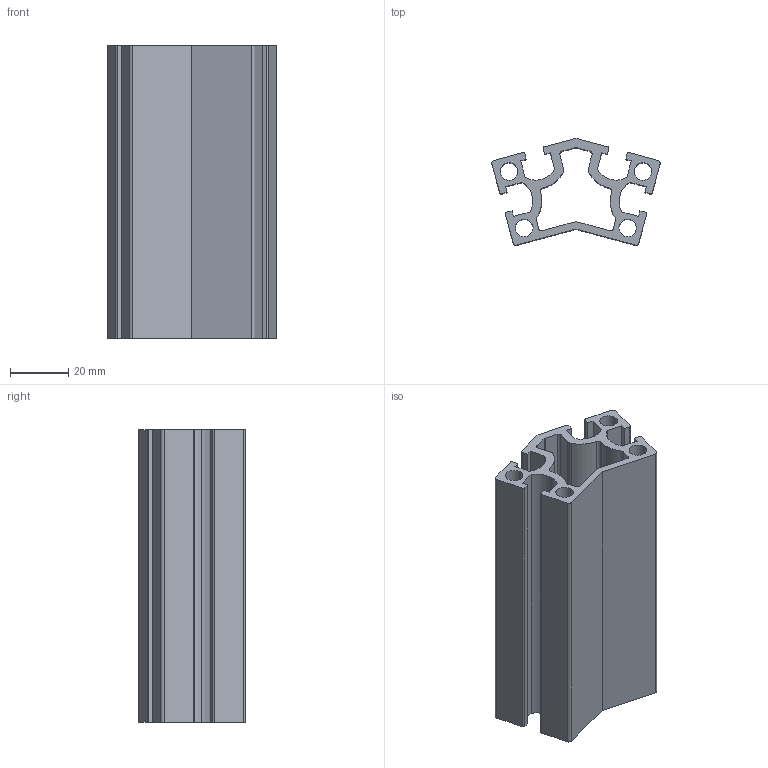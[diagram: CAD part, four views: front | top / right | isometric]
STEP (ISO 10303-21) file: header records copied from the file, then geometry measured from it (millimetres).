
FILE_DESCRIPTION (( 'STEP AP203' ), '1' );
FILE_NAME ('WS3030150-6.STEP', '2024-02-17T06:50:19', ( '' ), ( '' ), 'SwSTEP 2.0', 'SolidWorks 2022', '' );
FILE_SCHEMA (( 'CONFIG_CONTROL_DESIGN' ));
Length unit declared in the file: millimetre
Products named in the file (1): WS3030150-6
Bounding box: 57.56 x 36.52 x 100 mm (x, y, z)
Volume: 59760.4 mm3; surface area: 45151.1 mm2
Topology: 1 solids, 1 shells, 93 faces, 273 edges, 182 vertices
Faces by surface type: cylinder 49, plane 44
Entity records: 3222 total; most frequent: DIRECTION 559, CARTESIAN_POINT 549, ORIENTED_EDGE 546, EDGE_CURVE 273, AXIS2_PLACEMENT_3D 192, VERTEX_POINT 182, VECTOR 175, LINE 175
